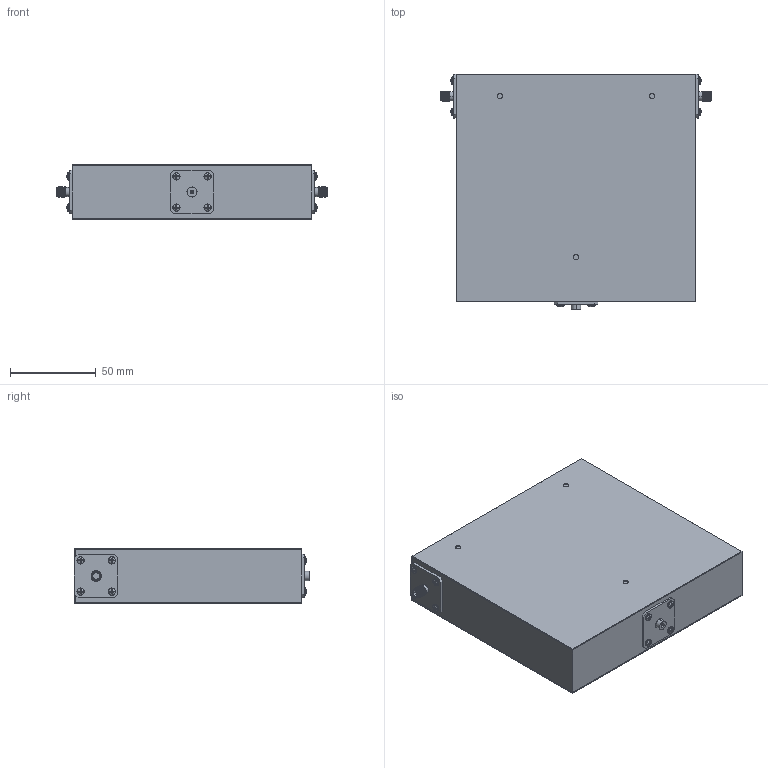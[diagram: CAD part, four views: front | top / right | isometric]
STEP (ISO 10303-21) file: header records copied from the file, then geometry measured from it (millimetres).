
FILE_DESCRIPTION (( 'STEP AP214' ), '1' );
FILE_NAME ('D3I0501 5.5x5.23x1.25 FF.step', '2021-12-01T20:55:44', ( '' ), ( '' ), 'SwSTEP 2.0', 'SolidWorks 2016', '' );
FILE_SCHEMA (( 'AUTOMOTIVE_DESIGN' ));
Length unit declared in the file: inch
Products named in the file (6): pan cross head_ai_CR-PHMS 0.086-56x0.125x0.125-N; D3I0501 5.5x5.23x1.20; D3I0501 5.5 x 5.23 x 1.25; Delta SMA-Female 1 inch flange threaded; D3I0501 5.5x5.23x1.25 FF; 1 inch
Assembly tree (17 placements, depth 2):
  D3I0501 5.5x5.23x1.25 FF
    D3I0501 5.5 x 5.23 x 1.25
    D3I0501 5.5x5.23x1.20
    Delta SMA-Female 1 inch flange threaded  x2
    1 inch
    pan cross head_ai_CR-PHMS 0.086-56x0.125x0.125-N  x12
Bounding box: 158.75 x 137.29 x 31.75 mm (x, y, z)
Volume: 592520.1 mm3; surface area: 142493.6 mm2
Topology: 17 solids, 17 shells, 414 faces, 942 edges, 582 vertices
Faces by surface type: plane 228, cylinder 122, torus 30, sphere 24, bspline 6, cone 4
Entity records: 4765 total; most frequent: CARTESIAN_POINT 1369, DIRECTION 717, ORIENTED_EDGE 594, EDGE_CURVE 297, AXIS2_PLACEMENT_3D 289, VERTEX_POINT 191, EDGE_LOOP 160, CIRCLE 150
